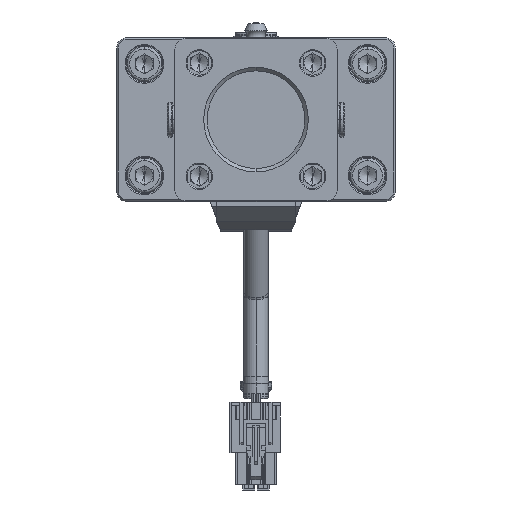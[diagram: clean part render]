
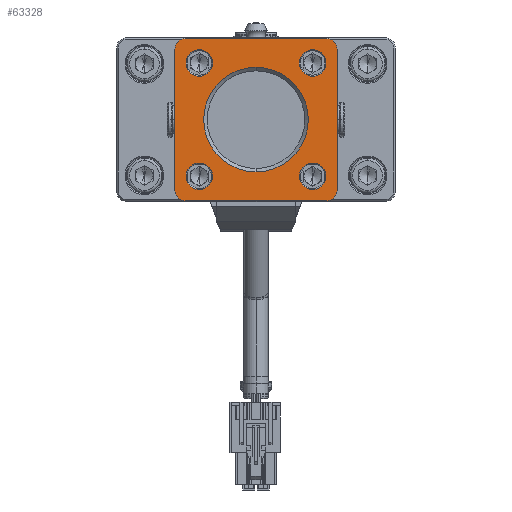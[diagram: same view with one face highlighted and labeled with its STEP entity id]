
A CAD part, front view. The second image highlights one B-rep face of the part: STEP entity #63328.
In plain terms, the highlighted planar face has unit normal (0, -1, 0).
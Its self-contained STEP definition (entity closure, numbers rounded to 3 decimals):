
#62383=CARTESIAN_POINT('',(20.25,-4.5,20.25));
#62384=DIRECTION('',(0.,-1.,0.));
#62385=DIRECTION('',(1.,0.,0.));
#62386=AXIS2_PLACEMENT_3D('',#62383,#62384,#62385);
#62388=DIRECTION('',(0.,0.,-1.));
#62389=VECTOR('',#62388,40.5);
#62390=CARTESIAN_POINT('',(23.25,-4.5,20.25));
#62391=LINE('',#62390,#62389);
#62392=CARTESIAN_POINT('',(20.25,-4.5,-20.25));
#62393=DIRECTION('',(0.,-1.,0.));
#62394=DIRECTION('',(0.,0.,-1.));
#62395=AXIS2_PLACEMENT_3D('',#62392,#62393,#62394);
#62397=DIRECTION('',(-1.,0.,0.));
#62398=VECTOR('',#62397,40.5);
#62399=CARTESIAN_POINT('',(20.25,-4.5,-23.25));
#62400=LINE('',#62399,#62398);
#62401=CARTESIAN_POINT('',(-20.25,-4.5,-20.25));
#62402=DIRECTION('',(0.,-1.,0.));
#62403=DIRECTION('',(-1.,0.,0.));
#62404=AXIS2_PLACEMENT_3D('',#62401,#62402,#62403);
#62406=DIRECTION('',(0.,0.,1.));
#62407=VECTOR('',#62406,40.5);
#62408=CARTESIAN_POINT('',(-23.25,-4.5,-20.25));
#62409=LINE('',#62408,#62407);
#62410=CARTESIAN_POINT('',(-20.25,-4.5,20.25));
#62411=DIRECTION('',(0.,-1.,0.));
#62412=DIRECTION('',(0.,0.,1.));
#62413=AXIS2_PLACEMENT_3D('',#62410,#62411,#62412);
#62415=DIRECTION('',(1.,0.,0.));
#62416=VECTOR('',#62415,40.5);
#62417=CARTESIAN_POINT('',(-20.25,-4.5,23.25));
#62418=LINE('',#62417,#62416);
#62419=CARTESIAN_POINT('',(16.25,-4.5,-16.25));
#62420=DIRECTION('',(0.,1.,0.));
#62421=DIRECTION('',(1.,0.,0.));
#62422=AXIS2_PLACEMENT_3D('',#62419,#62420,#62421);
#62424=CARTESIAN_POINT('',(16.25,-4.5,-16.25));
#62425=DIRECTION('',(0.,1.,0.));
#62426=DIRECTION('',(-1.,0.,0.));
#62427=AXIS2_PLACEMENT_3D('',#62424,#62425,#62426);
#62429=CARTESIAN_POINT('',(16.25,-4.5,16.25));
#62430=DIRECTION('',(0.,1.,0.));
#62431=DIRECTION('',(-1.,0.,0.));
#62432=AXIS2_PLACEMENT_3D('',#62429,#62430,#62431);
#62434=CARTESIAN_POINT('',(16.25,-4.5,16.25));
#62435=DIRECTION('',(0.,1.,0.));
#62436=DIRECTION('',(1.,0.,0.));
#62437=AXIS2_PLACEMENT_3D('',#62434,#62435,#62436);
#62439=CARTESIAN_POINT('',(-16.25,-4.5,16.25));
#62440=DIRECTION('',(0.,1.,0.));
#62441=DIRECTION('',(-1.,0.,0.));
#62442=AXIS2_PLACEMENT_3D('',#62439,#62440,#62441);
#62444=CARTESIAN_POINT('',(-16.25,-4.5,16.25));
#62445=DIRECTION('',(0.,1.,0.));
#62446=DIRECTION('',(1.,0.,0.));
#62447=AXIS2_PLACEMENT_3D('',#62444,#62445,#62446);
#62449=CARTESIAN_POINT('',(-16.25,-4.5,-16.25));
#62450=DIRECTION('',(0.,1.,0.));
#62451=DIRECTION('',(1.,0.,0.));
#62452=AXIS2_PLACEMENT_3D('',#62449,#62450,#62451);
#62454=CARTESIAN_POINT('',(-16.25,-4.5,-16.25));
#62455=DIRECTION('',(0.,1.,0.));
#62456=DIRECTION('',(-1.,0.,0.));
#62457=AXIS2_PLACEMENT_3D('',#62454,#62455,#62456);
#62459=CARTESIAN_POINT('',(0.,-4.5,0.));
#62460=DIRECTION('',(0.,1.,0.));
#62461=DIRECTION('',(0.,0.,1.));
#62462=AXIS2_PLACEMENT_3D('',#62459,#62460,#62461);
#62464=CARTESIAN_POINT('',(0.,-4.5,0.));
#62465=DIRECTION('',(0.,1.,0.));
#62466=DIRECTION('',(0.,0.,-1.));
#62467=AXIS2_PLACEMENT_3D('',#62464,#62465,#62466);
#63119=CARTESIAN_POINT('',(23.25,-4.5,20.25));
#63120=CARTESIAN_POINT('',(20.25,-4.5,23.25));
#63121=VERTEX_POINT('',#63119);
#63122=VERTEX_POINT('',#63120);
#63127=CARTESIAN_POINT('',(-20.25,-4.5,23.25));
#63128=CARTESIAN_POINT('',(-23.25,-4.5,20.25));
#63129=VERTEX_POINT('',#63127);
#63130=VERTEX_POINT('',#63128);
#63135=CARTESIAN_POINT('',(20.25,-4.5,-23.25));
#63136=CARTESIAN_POINT('',(23.25,-4.5,-20.25));
#63137=VERTEX_POINT('',#63135);
#63138=VERTEX_POINT('',#63136);
#63143=CARTESIAN_POINT('',(-23.25,-4.5,-20.25));
#63144=CARTESIAN_POINT('',(-20.25,-4.5,-23.25));
#63145=VERTEX_POINT('',#63143);
#63146=VERTEX_POINT('',#63144);
#63167=CARTESIAN_POINT('',(20.05,-4.5,-16.25));
#63168=CARTESIAN_POINT('',(12.45,-4.5,-16.25));
#63169=VERTEX_POINT('',#63167);
#63170=VERTEX_POINT('',#63168);
#63175=CARTESIAN_POINT('',(12.45,-4.5,16.25));
#63176=CARTESIAN_POINT('',(20.05,-4.5,16.25));
#63177=VERTEX_POINT('',#63175);
#63178=VERTEX_POINT('',#63176);
#63183=CARTESIAN_POINT('',(-20.05,-4.5,16.25));
#63184=CARTESIAN_POINT('',(-12.45,-4.5,16.25));
#63185=VERTEX_POINT('',#63183);
#63186=VERTEX_POINT('',#63184);
#63191=CARTESIAN_POINT('',(-12.45,-4.5,-16.25));
#63192=CARTESIAN_POINT('',(-20.05,-4.5,-16.25));
#63193=VERTEX_POINT('',#63191);
#63194=VERTEX_POINT('',#63192);
#63267=CARTESIAN_POINT('',(0.,-4.5,15.));
#63268=CARTESIAN_POINT('',(0.,-4.5,-15.));
#63269=VERTEX_POINT('',#63267);
#63270=VERTEX_POINT('',#63268);
#63275=CARTESIAN_POINT('',(0.,-4.5,0.));
#63276=DIRECTION('',(0.,1.,0.));
#63277=DIRECTION('',(1.,0.,0.));
#63278=AXIS2_PLACEMENT_3D('',#63275,#63276,#63277);
#63279=PLANE('',#63278);
#63281=ORIENTED_EDGE('',*,*,#63280,.F.);
#63283=ORIENTED_EDGE('',*,*,#63282,.T.);
#63285=ORIENTED_EDGE('',*,*,#63284,.F.);
#63287=ORIENTED_EDGE('',*,*,#63286,.T.);
#63289=ORIENTED_EDGE('',*,*,#63288,.F.);
#63291=ORIENTED_EDGE('',*,*,#63290,.T.);
#63293=ORIENTED_EDGE('',*,*,#63292,.F.);
#63295=ORIENTED_EDGE('',*,*,#63294,.T.);
#63296=EDGE_LOOP('',(#63281,#63283,#63285,#63287,#63289,#63291,#63293,#63295));
#63297=FACE_OUTER_BOUND('',#63296,.F.);
#63299=ORIENTED_EDGE('',*,*,#63298,.F.);
#63301=ORIENTED_EDGE('',*,*,#63300,.F.);
#63302=EDGE_LOOP('',(#63299,#63301));
#63303=FACE_BOUND('',#63302,.F.);
#63305=ORIENTED_EDGE('',*,*,#63304,.F.);
#63307=ORIENTED_EDGE('',*,*,#63306,.F.);
#63308=EDGE_LOOP('',(#63305,#63307));
#63309=FACE_BOUND('',#63308,.F.);
#63311=ORIENTED_EDGE('',*,*,#63310,.F.);
#63313=ORIENTED_EDGE('',*,*,#63312,.F.);
#63314=EDGE_LOOP('',(#63311,#63313));
#63315=FACE_BOUND('',#63314,.F.);
#63317=ORIENTED_EDGE('',*,*,#63316,.F.);
#63319=ORIENTED_EDGE('',*,*,#63318,.F.);
#63320=EDGE_LOOP('',(#63317,#63319));
#63321=FACE_BOUND('',#63320,.F.);
#63323=ORIENTED_EDGE('',*,*,#63322,.F.);
#63325=ORIENTED_EDGE('',*,*,#63324,.F.);
#63326=EDGE_LOOP('',(#63323,#63325));
#63327=FACE_BOUND('',#63326,.F.);
#63328=ADVANCED_FACE('',(#63297,#63303,#63309,#63315,#63321,#63327),#63279,.F.);
#62387=CIRCLE('',#62386,3.);
#62396=CIRCLE('',#62395,3.);
#62405=CIRCLE('',#62404,3.);
#62414=CIRCLE('',#62413,3.);
#62423=CIRCLE('',#62422,3.8);
#62428=CIRCLE('',#62427,3.8);
#62433=CIRCLE('',#62432,3.8);
#62438=CIRCLE('',#62437,3.8);
#62443=CIRCLE('',#62442,3.8);
#62448=CIRCLE('',#62447,3.8);
#62453=CIRCLE('',#62452,3.8);
#62458=CIRCLE('',#62457,3.8);
#62463=CIRCLE('',#62462,15.);
#62468=CIRCLE('',#62467,15.);
#63280=EDGE_CURVE('',#63121,#63122,#62387,.T.);
#63282=EDGE_CURVE('',#63121,#63138,#62391,.T.);
#63284=EDGE_CURVE('',#63137,#63138,#62396,.T.);
#63286=EDGE_CURVE('',#63137,#63146,#62400,.T.);
#63288=EDGE_CURVE('',#63145,#63146,#62405,.T.);
#63290=EDGE_CURVE('',#63145,#63130,#62409,.T.);
#63292=EDGE_CURVE('',#63129,#63130,#62414,.T.);
#63294=EDGE_CURVE('',#63129,#63122,#62418,.T.);
#63298=EDGE_CURVE('',#63169,#63170,#62423,.T.);
#63300=EDGE_CURVE('',#63170,#63169,#62428,.T.);
#63304=EDGE_CURVE('',#63177,#63178,#62433,.T.);
#63306=EDGE_CURVE('',#63178,#63177,#62438,.T.);
#63310=EDGE_CURVE('',#63185,#63186,#62443,.T.);
#63312=EDGE_CURVE('',#63186,#63185,#62448,.T.);
#63316=EDGE_CURVE('',#63193,#63194,#62453,.T.);
#63318=EDGE_CURVE('',#63194,#63193,#62458,.T.);
#63322=EDGE_CURVE('',#63269,#63270,#62463,.T.);
#63324=EDGE_CURVE('',#63270,#63269,#62468,.T.);
